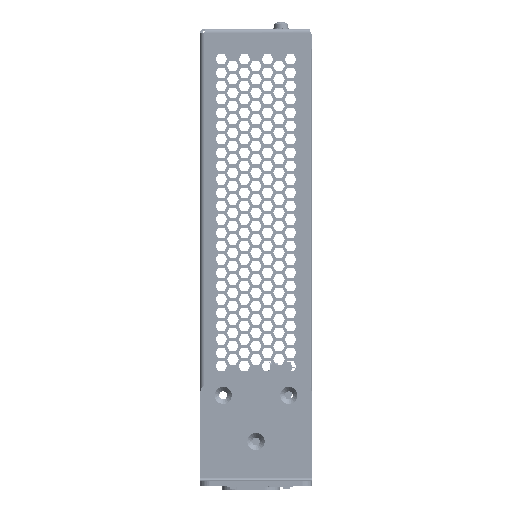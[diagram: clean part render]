
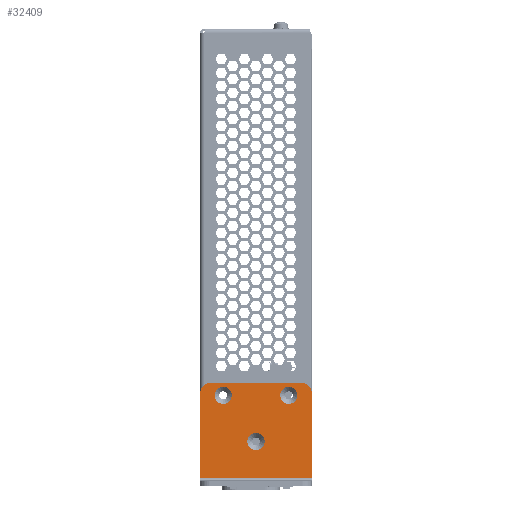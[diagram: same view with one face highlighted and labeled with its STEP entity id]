
A CAD part, left-side view. The second image highlights one B-rep face of the part: STEP entity #32409.
In plain terms, the highlighted planar face has unit normal (-1, 0, 0).
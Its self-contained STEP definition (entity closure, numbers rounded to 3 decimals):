
#905 = PLANE ( 'NONE',  #243769 ) ;
#2270 = DIRECTION ( 'NONE',  ( 1., 0., 0. ) ) ;
#3941 = CIRCLE ( 'NONE', #180746, 3.35 ) ;
#4235 = DIRECTION ( 'NONE',  ( 0., 0., 1. ) ) ;
#4293 = LINE ( 'NONE', #122723, #116250 ) ;
#4427 = LINE ( 'NONE', #6963, #198958 ) ;
#5537 = CARTESIAN_POINT ( 'NONE',  ( 5.527, -10.731, 35.2 ) ) ;
#5995 = DIRECTION ( 'NONE',  ( -1., 0., 0. ) ) ;
#6783 = CARTESIAN_POINT ( 'NONE',  ( 5.527, 19.869, 36. ) ) ;
#6963 = CARTESIAN_POINT ( 'NONE',  ( 5.527, -19.731, 3. ) ) ;
#7975 = CARTESIAN_POINT ( 'NONE',  ( 5.527, -19.731, 36. ) ) ;
#8002 = ORIENTED_EDGE ( 'NONE', *, *, #245517, .T. ) ;
#8081 = DIRECTION ( 'NONE',  ( 0., -1., 0. ) ) ;
#14435 = ORIENTED_EDGE ( 'NONE', *, *, #51361, .T. ) ;
#15282 = DIRECTION ( 'NONE',  ( 0., 0., 1. ) ) ;
#17327 = AXIS2_PLACEMENT_3D ( 'NONE', #6783, #27351, #4235 ) ;
#17779 = AXIS2_PLACEMENT_3D ( 'NONE', #99062, #201993, #65524 ) ;
#20858 = EDGE_CURVE ( 'NONE', #43228, #83700, #4427, .T. ) ;
#21489 = DIRECTION ( 'NONE',  ( 0., 0., 1. ) ) ;
#24171 = AXIS2_PLACEMENT_3D ( 'NONE', #136191, #2270, #214694 ) ;
#26229 = VERTEX_POINT ( 'NONE', #162851 ) ;
#27351 = DIRECTION ( 'NONE',  ( -1., 0., 0. ) ) ;
#28209 = CARTESIAN_POINT ( 'NONE',  ( 5.527, 2.069, 17.2 ) ) ;
#29029 = DIRECTION ( 'NONE',  ( 1., 0., 0. ) ) ;
#31016 = VERTEX_POINT ( 'NONE', #31895 ) ;
#31895 = CARTESIAN_POINT ( 'NONE',  ( 5.527, 14.869, 31.85 ) ) ;
#32409 = ADVANCED_FACE ( 'NONE', ( #38243, #177298, #176049, #179849 ), #905, .T. ) ;
#38243 = FACE_BOUND ( 'NONE', #230420, .T. ) ;
#43228 = VERTEX_POINT ( 'NONE', #63443 ) ;
#43561 = EDGE_LOOP ( 'NONE', ( #8002, #160102 ) ) ;
#45443 = DIRECTION ( 'NONE',  ( 0., 0., 1. ) ) ;
#48632 = CARTESIAN_POINT ( 'NONE',  ( 5.527, 2.069, 13.85 ) ) ;
#48771 = CIRCLE ( 'NONE', #24171, 3.35 ) ;
#49145 = EDGE_LOOP ( 'NONE', ( #99204, #216170, #103135, #63734, #71210, #14435 ) ) ;
#49861 = AXIS2_PLACEMENT_3D ( 'NONE', #5537, #142015, #45443 ) ;
#51361 = EDGE_CURVE ( 'NONE', #210753, #233374, #239779, .T. ) ;
#56645 = VERTEX_POINT ( 'NONE', #48632 ) ;
#56988 = CARTESIAN_POINT ( 'NONE',  ( 5.527, 19.869, 40. ) ) ;
#63443 = CARTESIAN_POINT ( 'NONE',  ( 5.527, -19.731, 3. ) ) ;
#63734 = ORIENTED_EDGE ( 'NONE', *, *, #20858, .F. ) ;
#64256 = CARTESIAN_POINT ( 'NONE',  ( 5.527, -10.731, 31.85 ) ) ;
#64913 = DIRECTION ( 'NONE',  ( 0., 1., 0. ) ) ;
#65524 = DIRECTION ( 'NONE',  ( 0., 0., 1. ) ) ;
#70967 = DIRECTION ( 'NONE',  ( 1., 0., 0. ) ) ;
#71007 = EDGE_CURVE ( 'NONE', #56645, #219370, #190039, .T. ) ;
#71210 = ORIENTED_EDGE ( 'NONE', *, *, #87754, .F. ) ;
#71955 = CARTESIAN_POINT ( 'NONE',  ( 5.527, 23.869, 3. ) ) ;
#79425 = CARTESIAN_POINT ( 'NONE',  ( 5.527, -19.731, 40. ) ) ;
#83169 = CARTESIAN_POINT ( 'NONE',  ( 5.527, 14.869, 35.2 ) ) ;
#83700 = VERTEX_POINT ( 'NONE', #71955 ) ;
#87123 = EDGE_LOOP ( 'NONE', ( #237815, #254735 ) ) ;
#87754 = EDGE_CURVE ( 'NONE', #210753, #43228, #204933, .T. ) ;
#90293 = CARTESIAN_POINT ( 'NONE',  ( 5.527, -10.731, 35.2 ) ) ;
#92701 = CIRCLE ( 'NONE', #121396, 3.35 ) ;
#92820 = EDGE_CURVE ( 'NONE', #181408, #141507, #206442, .T. ) ;
#99062 = CARTESIAN_POINT ( 'NONE',  ( 5.527, -15.731, 36. ) ) ;
#99204 = ORIENTED_EDGE ( 'NONE', *, *, #241026, .F. ) ;
#100968 = DIRECTION ( 'NONE',  ( 0., 0., 1. ) ) ;
#103135 = ORIENTED_EDGE ( 'NONE', *, *, #192082, .F. ) ;
#103472 = CARTESIAN_POINT ( 'NONE',  ( 5.527, 23.869, 40. ) ) ;
#105625 = CARTESIAN_POINT ( 'NONE',  ( 5.527, -15.731, 40. ) ) ;
#113442 = CARTESIAN_POINT ( 'NONE',  ( 5.527, 23.869, 36. ) ) ;
#116250 = VECTOR ( 'NONE', #8081, 1000. ) ;
#116897 = VERTEX_POINT ( 'NONE', #159517 ) ;
#121396 = AXIS2_PLACEMENT_3D ( 'NONE', #90293, #70967, #170115 ) ;
#122266 = DIRECTION ( 'NONE',  ( 0., 0., 1. ) ) ;
#122723 = CARTESIAN_POINT ( 'NONE',  ( 5.527, -19.731, 40. ) ) ;
#126051 = DIRECTION ( 'NONE',  ( 1., 0., 0. ) ) ;
#126990 = EDGE_CURVE ( 'NONE', #179242, #116897, #168977, .T. ) ;
#128994 = VECTOR ( 'NONE', #100968, 1000. ) ;
#136191 = CARTESIAN_POINT ( 'NONE',  ( 5.527, 2.069, 17.2 ) ) ;
#140619 = AXIS2_PLACEMENT_3D ( 'NONE', #28209, #126051, #122266 ) ;
#141507 = VERTEX_POINT ( 'NONE', #113442 ) ;
#142015 = DIRECTION ( 'NONE',  ( 1., 0., 0. ) ) ;
#159517 = CARTESIAN_POINT ( 'NONE',  ( 5.527, -10.731, 38.55 ) ) ;
#160102 = ORIENTED_EDGE ( 'NONE', *, *, #126990, .T. ) ;
#162537 = DIRECTION ( 'NONE',  ( 0., 0., -1. ) ) ;
#162851 = CARTESIAN_POINT ( 'NONE',  ( 5.527, 14.869, 38.55 ) ) ;
#168977 = CIRCLE ( 'NONE', #49861, 3.35 ) ;
#170115 = DIRECTION ( 'NONE',  ( 0., 0., 1. ) ) ;
#175567 = ORIENTED_EDGE ( 'NONE', *, *, #71007, .T. ) ;
#176049 = FACE_BOUND ( 'NONE', #87123, .T. ) ;
#177120 = CARTESIAN_POINT ( 'NONE',  ( 5.527, 2.069, 20.55 ) ) ;
#177298 = FACE_BOUND ( 'NONE', #43561, .T. ) ;
#179020 = AXIS2_PLACEMENT_3D ( 'NONE', #228971, #187845, #15282 ) ;
#179242 = VERTEX_POINT ( 'NONE', #64256 ) ;
#179849 = FACE_OUTER_BOUND ( 'NONE', #49145, .T. ) ;
#180746 = AXIS2_PLACEMENT_3D ( 'NONE', #83169, #29029, #243978 ) ;
#181408 = VERTEX_POINT ( 'NONE', #56988 ) ;
#187845 = DIRECTION ( 'NONE',  ( 1., 0., 0. ) ) ;
#188829 = EDGE_CURVE ( 'NONE', #26229, #31016, #3941, .T. ) ;
#190039 = CIRCLE ( 'NONE', #140619, 3.35 ) ;
#192082 = EDGE_CURVE ( 'NONE', #83700, #141507, #220639, .T. ) ;
#198958 = VECTOR ( 'NONE', #64913, 1000. ) ;
#200222 = VECTOR ( 'NONE', #162537, 1000. ) ;
#201993 = DIRECTION ( 'NONE',  ( -1., 0., 0. ) ) ;
#203672 = CARTESIAN_POINT ( 'NONE',  ( 5.527, -19.731, 2. ) ) ;
#204933 = LINE ( 'NONE', #203672, #200222 ) ;
#206442 = CIRCLE ( 'NONE', #17327, 4. ) ;
#210753 = VERTEX_POINT ( 'NONE', #7975 ) ;
#214694 = DIRECTION ( 'NONE',  ( 0., 0., 1. ) ) ;
#216170 = ORIENTED_EDGE ( 'NONE', *, *, #92820, .T. ) ;
#218871 = EDGE_CURVE ( 'NONE', #31016, #26229, #236499, .T. ) ;
#219370 = VERTEX_POINT ( 'NONE', #177120 ) ;
#220639 = LINE ( 'NONE', #103472, #128994 ) ;
#228952 = ORIENTED_EDGE ( 'NONE', *, *, #248593, .T. ) ;
#228971 = CARTESIAN_POINT ( 'NONE',  ( 5.527, 14.869, 35.2 ) ) ;
#230420 = EDGE_LOOP ( 'NONE', ( #228952, #175567 ) ) ;
#233374 = VERTEX_POINT ( 'NONE', #105625 ) ;
#236499 = CIRCLE ( 'NONE', #179020, 3.35 ) ;
#237815 = ORIENTED_EDGE ( 'NONE', *, *, #188829, .T. ) ;
#239779 = CIRCLE ( 'NONE', #17779, 4. ) ;
#241026 = EDGE_CURVE ( 'NONE', #181408, #233374, #4293, .T. ) ;
#243769 = AXIS2_PLACEMENT_3D ( 'NONE', #79425, #5995, #21489 ) ;
#243978 = DIRECTION ( 'NONE',  ( 0., 0., 1. ) ) ;
#245517 = EDGE_CURVE ( 'NONE', #116897, #179242, #92701, .T. ) ;
#248593 = EDGE_CURVE ( 'NONE', #219370, #56645, #48771, .T. ) ;
#254735 = ORIENTED_EDGE ( 'NONE', *, *, #218871, .T. ) ;
